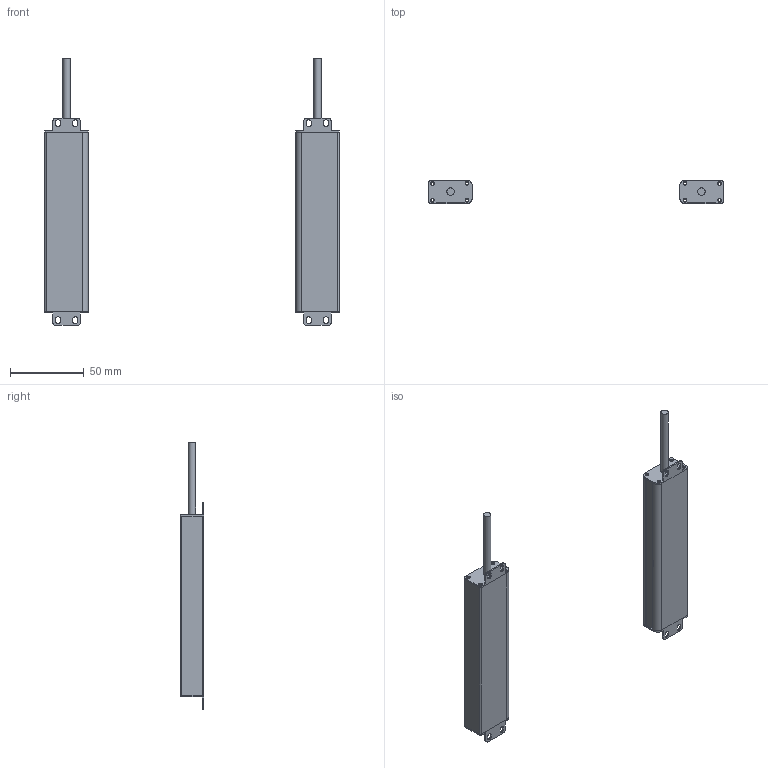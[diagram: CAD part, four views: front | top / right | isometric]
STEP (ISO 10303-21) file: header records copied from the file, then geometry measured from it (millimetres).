
FILE_DESCRIPTION(/* description */ (''),/* implementation_level */ '2;1');
FILE_NAME(/* name */ '0620（16X30ZW).stp',/* time_stamp */ '2020-07-14T19:04:49+08:00',/* author */ (''),/* organization */ (''),/* preprocessor_version */ 'ST-DEVELOPER v16',/* originating_system */ 'SIEMENS PLM Software NX 10.0',/* authorisation */ '');
FILE_SCHEMA (('AP203_CONFIGURATION_CONTROLLED_3D_DESIGN_OF_MECHANICAL_PARTS_AND_ASSEMBLIES_MIM_LF { 1 0 10303 403 2 1 2}'));
Length unit declared in the file: millimetre
Products named in the file (1): Admi58A03253m7ch
Bounding box: 200 x 16 x 181.5 mm (x, y, z)
Volume: 38636.6 mm3; surface area: 58010.4 mm2
Topology: 10 solids, 10 shells, 296 faces, 830 edges, 554 vertices
Faces by surface type: plane 160, cylinder 136
Full cylindrical faces by diameter (mm): 5 x2
Entity records: 9760 total; most frequent: DIRECTION 1692, CARTESIAN_POINT 1675, ORIENTED_EDGE 1652, EDGE_CURVE 826, AXIS2_PLACEMENT_3D 569, LINE 554, VECTOR 554, VERTEX_POINT 552
